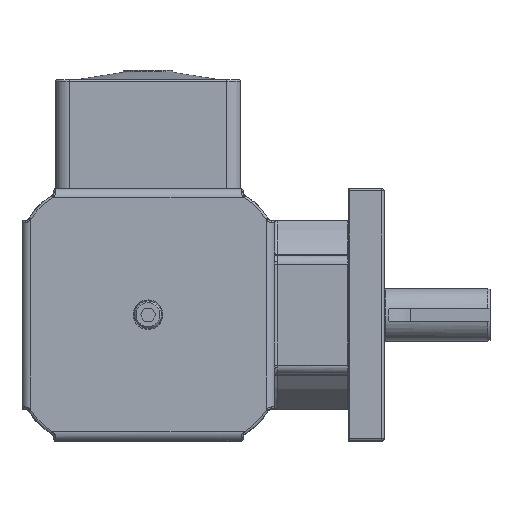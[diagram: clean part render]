
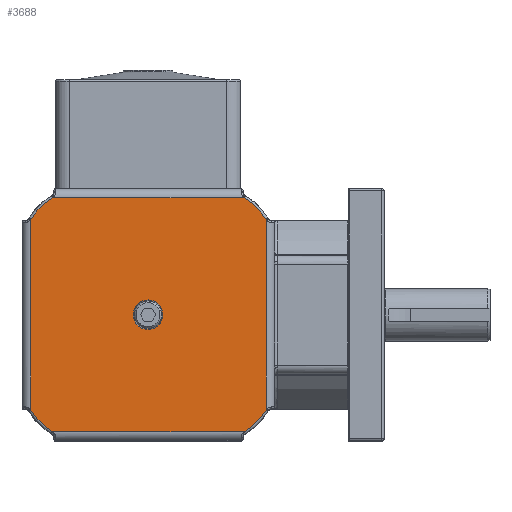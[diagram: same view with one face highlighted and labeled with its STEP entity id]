
A CAD part, top view. The second image highlights one B-rep face of the part: STEP entity #3688.
In plain terms, the highlighted planar face has unit normal (0, 0, 1).
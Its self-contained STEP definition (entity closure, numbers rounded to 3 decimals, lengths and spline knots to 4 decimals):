
#2086 = VERTEX_POINT ( 'NONE', #7734 ) ;
#2380 = VERTEX_POINT ( 'NONE', #8387 ) ;
#3004 = EDGE_CURVE ( 'NONE', #2380, #2086, #9879, .T. ) ;
#3053 = EDGE_CURVE ( 'NONE', #46992, #11131, #9992, .T. ) ;
#3564 = VERTEX_POINT ( 'NONE', #11109 ) ;
#3572 = ORIENTED_EDGE ( 'NONE', *, *, #3574, .T. ) ;
#3574 = EDGE_CURVE ( 'NONE', #13276, #3564, #11162, .T. ) ;
#3588 = ORIENTED_EDGE ( 'NONE', *, *, #13247, .T. ) ;
#3597 = ORIENTED_EDGE ( 'NONE', *, *, #5734, .T. ) ;
#3626 = ORIENTED_EDGE ( 'NONE', *, *, #8658, .T. ) ;
#3633 = ORIENTED_EDGE ( 'NONE', *, *, #3053, .T. ) ;
#3636 = EDGE_LOOP ( 'NONE', ( #3633, #3597, #3626, #3588, #3572, #49736, #49517, #49914 ) ) ;
#3639 = ORIENTED_EDGE ( 'NONE', *, *, #3695, .F. ) ;
#3653 = ORIENTED_EDGE ( 'NONE', *, *, #3004, .F. ) ;
#3659 = EDGE_LOOP ( 'NONE', ( #3639, #3653 ) ) ;
#3688 = ADVANCED_FACE ( 'NONE', ( #11324, #11322 ), #11387, .F. ) ;
#3695 = EDGE_CURVE ( 'NONE', #2086, #2380, #11369, .T. ) ;
#5734 = EDGE_CURVE ( 'NONE', #11131, #13289, #14663, .T. ) ;
#7734 = CARTESIAN_POINT ( 'NONE',  ( 0.2093, 0., 12.228 ) ) ;
#8387 = CARTESIAN_POINT ( 'NONE',  ( -0.2093, 0., 12.228 ) ) ;
#8658 = EDGE_CURVE ( 'NONE', #13289, #8883, #16482, .T. ) ;
#8883 = VERTEX_POINT ( 'NONE', #16559 ) ;
#9875 = DIRECTION ( 'NONE',  ( 1., 0., 0. ) ) ;
#9876 = DIRECTION ( 'NONE',  ( 0., 0., 1. ) ) ;
#9877 = CARTESIAN_POINT ( 'NONE',  ( 0., 0., 12.228 ) ) ;
#9878 = AXIS2_PLACEMENT_3D ( 'NONE', #9877, #9876, #9875 ) ;
#9879 = CIRCLE ( 'NONE', #9878, 0.2093 ) ;
#9989 = DIRECTION ( 'NONE',  ( 0., 1., 0. ) ) ;
#9990 = VECTOR ( 'NONE', #9989, 39.3701 ) ;
#9991 = CARTESIAN_POINT ( 'NONE',  ( 1.671, 1.337, 12.228 ) ) ;
#9992 = LINE ( 'NONE', #9991, #9990 ) ;
#11109 = CARTESIAN_POINT ( 'NONE',  ( -1.66, -1.3516, 12.228 ) ) ;
#11131 = VERTEX_POINT ( 'NONE', #17918 ) ;
#11158 = DIRECTION ( 'NONE',  ( 0., -1., 0. ) ) ;
#11159 = VECTOR ( 'NONE', #11158, 39.3701 ) ;
#11161 = CARTESIAN_POINT ( 'NONE',  ( -1.66, -1.785, 12.228 ) ) ;
#11162 = LINE ( 'NONE', #11161, #11159 ) ;
#11322 = FACE_OUTER_BOUND ( 'NONE', #3636, .T. ) ;
#11324 = FACE_BOUND ( 'NONE', #3659, .T. ) ;
#11365 = DIRECTION ( 'NONE',  ( 1., 0., 0. ) ) ;
#11366 = DIRECTION ( 'NONE',  ( 0., 0., 1. ) ) ;
#11367 = CARTESIAN_POINT ( 'NONE',  ( 0., 0., 12.228 ) ) ;
#11368 = AXIS2_PLACEMENT_3D ( 'NONE', #11367, #11366, #11365 ) ;
#11369 = CIRCLE ( 'NONE', #11368, 0.2093 ) ;
#11383 = DIRECTION ( 'NONE',  ( -1., 0., 0. ) ) ;
#11384 = DIRECTION ( 'NONE',  ( 0., 0., -1. ) ) ;
#11385 = CARTESIAN_POINT ( 'NONE',  ( -1.785, -1.785, 12.228 ) ) ;
#11386 = AXIS2_PLACEMENT_3D ( 'NONE', #11385, #11384, #11383 ) ;
#11387 = PLANE ( 'NONE',  #11386 ) ;
#13247 = EDGE_CURVE ( 'NONE', #8883, #13276, #20277, .T. ) ;
#13276 = VERTEX_POINT ( 'NONE', #20352 ) ;
#13289 = VERTEX_POINT ( 'NONE', #20335 ) ;
#14656 = DIRECTION ( 'NONE',  ( -1., 0., 0. ) ) ;
#14658 = DIRECTION ( 'NONE',  ( 0., 0., 1. ) ) ;
#14660 = CARTESIAN_POINT ( 'NONE',  ( 0.861, 0.85, 12.228 ) ) ;
#14661 = AXIS2_PLACEMENT_3D ( 'NONE', #14660, #14658, #14656 ) ;
#14663 = CIRCLE ( 'NONE', #14661, 0.9527 ) ;
#16477 = DIRECTION ( 'NONE',  ( -1., 0., 0. ) ) ;
#16479 = VECTOR ( 'NONE', #16477, 39.3701 ) ;
#16481 = CARTESIAN_POINT ( 'NONE',  ( -1.785, 1.66, 12.228 ) ) ;
#16482 = LINE ( 'NONE', #16481, #16479 ) ;
#16559 = CARTESIAN_POINT ( 'NONE',  ( -1.3516, 1.66, 12.228 ) ) ;
#17918 = CARTESIAN_POINT ( 'NONE',  ( 1.671, 1.3516, 12.228 ) ) ;
#20273 = DIRECTION ( 'NONE',  ( -1., 0., 0. ) ) ;
#20274 = DIRECTION ( 'NONE',  ( 0., 0., 1. ) ) ;
#20275 = CARTESIAN_POINT ( 'NONE',  ( -0.85, 0.85, 12.228 ) ) ;
#20276 = AXIS2_PLACEMENT_3D ( 'NONE', #20275, #20274, #20273 ) ;
#20277 = CIRCLE ( 'NONE', #20276, 0.9527 ) ;
#20335 = CARTESIAN_POINT ( 'NONE',  ( 1.3626, 1.66, 12.228 ) ) ;
#20352 = CARTESIAN_POINT ( 'NONE',  ( -1.66, 1.3516, 12.228 ) ) ;
#24519 = VERTEX_POINT ( 'NONE', #28767 ) ;
#28767 = CARTESIAN_POINT ( 'NONE',  ( 1.3626, -1.66, 12.228 ) ) ;
#34542 = CIRCLE ( 'NONE', #34606, 0.9527 ) ;
#34603 = DIRECTION ( 'NONE',  ( -1., 0., 0. ) ) ;
#34604 = DIRECTION ( 'NONE',  ( 0., 0., 1. ) ) ;
#34605 = CARTESIAN_POINT ( 'NONE',  ( 0.861, -0.85, 12.228 ) ) ;
#34606 = AXIS2_PLACEMENT_3D ( 'NONE', #34605, #34604, #34603 ) ;
#34616 = CARTESIAN_POINT ( 'NONE',  ( 1.671, -1.3516, 12.228 ) ) ;
#40424 = LINE ( 'NONE', #40456, #40455 ) ;
#40454 = DIRECTION ( 'NONE',  ( 1., 0., 0. ) ) ;
#40455 = VECTOR ( 'NONE', #40454, 39.3701 ) ;
#40456 = CARTESIAN_POINT ( 'NONE',  ( -1.785, -1.66, 12.228 ) ) ;
#40647 = CARTESIAN_POINT ( 'NONE',  ( -1.3516, -1.66, 12.228 ) ) ;
#40897 = DIRECTION ( 'NONE',  ( -1., 0., 0. ) ) ;
#40899 = DIRECTION ( 'NONE',  ( 0., 0., 1. ) ) ;
#40900 = CARTESIAN_POINT ( 'NONE',  ( -0.85, -0.85, 12.228 ) ) ;
#40901 = AXIS2_PLACEMENT_3D ( 'NONE', #40900, #40899, #40897 ) ;
#40903 = CIRCLE ( 'NONE', #40901, 0.9527 ) ;
#46955 = EDGE_CURVE ( 'NONE', #24519, #46992, #34542, .T. ) ;
#46992 = VERTEX_POINT ( 'NONE', #34616 ) ;
#49490 = EDGE_CURVE ( 'NONE', #49549, #24519, #40424, .T. ) ;
#49517 = ORIENTED_EDGE ( 'NONE', *, *, #49490, .T. ) ;
#49549 = VERTEX_POINT ( 'NONE', #40647 ) ;
#49659 = EDGE_CURVE ( 'NONE', #3564, #49549, #40903, .T. ) ;
#49736 = ORIENTED_EDGE ( 'NONE', *, *, #49659, .T. ) ;
#49914 = ORIENTED_EDGE ( 'NONE', *, *, #46955, .T. ) ;
